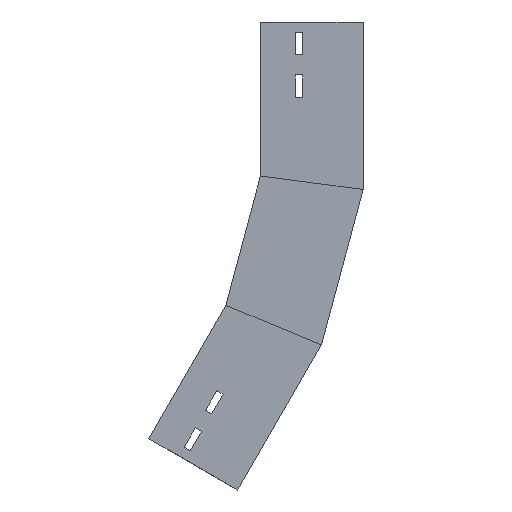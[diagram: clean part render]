
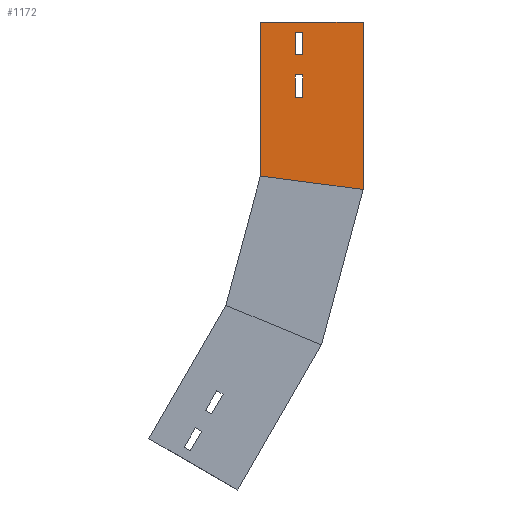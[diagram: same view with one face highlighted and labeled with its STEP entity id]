
A CAD part, left-side view. The second image highlights one B-rep face of the part: STEP entity #1172.
In plain terms, the highlighted planar face has unit normal (-1, 0, 0) as drawn and (1, 0, 0) by its records, which use the part's own axes.
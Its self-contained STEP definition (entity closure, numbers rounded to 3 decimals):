
#9 = CARTESIAN_POINT ( 'NONE',  ( 0., 127.134, -264.264 ) ) ;
#18 = ORIENTED_EDGE ( 'NONE', *, *, #209, .F. ) ;
#35 = VECTOR ( 'NONE', #793, 1000. ) ;
#42 = ORIENTED_EDGE ( 'NONE', *, *, #1484, .F. ) ;
#49 = ORIENTED_EDGE ( 'NONE', *, *, #1304, .F. ) ;
#53 = EDGE_CURVE ( 'NONE', #825, #692, #206, .T. ) ;
#57 = DIRECTION ( 'NONE',  ( 0., 0.866, 0.5 ) ) ;
#74 = VERTEX_POINT ( 'NONE', #1139 ) ;
#83 = CARTESIAN_POINT ( 'NONE',  ( 0., 147.374, -381.321 ) ) ;
#135 = VECTOR ( 'NONE', #415, 1000. ) ;
#141 = VECTOR ( 'NONE', #1040, 1000. ) ;
#146 = VECTOR ( 'NONE', #698, 1000. ) ;
#179 = ORIENTED_EDGE ( 'NONE', *, *, #1224, .T. ) ;
#190 = VECTOR ( 'NONE', #57, 1000. ) ;
#206 = LINE ( 'NONE', #226, #35 ) ;
#209 = EDGE_CURVE ( 'NONE', #570, #825, #336, .T. ) ;
#219 = VERTEX_POINT ( 'NONE', #443 ) ;
#225 = CARTESIAN_POINT ( 'NONE',  ( 0., 59.416, -306.442 ) ) ;
#226 = CARTESIAN_POINT ( 'NONE',  ( 0., 163.271, -394.856 ) ) ;
#230 = VERTEX_POINT ( 'NONE', #406 ) ;
#240 = VECTOR ( 'NONE', #1369, 1000. ) ;
#294 = AXIS2_PLACEMENT_3D ( 'NONE', #663, #765, #783 ) ;
#328 = FACE_OUTER_BOUND ( 'NONE', #1234, .T. ) ;
#336 = LINE ( 'NONE', #1469, #1409 ) ;
#338 = PLANE ( 'NONE',  #294 ) ;
#357 = DIRECTION ( 'NONE',  ( 0., 0.5, -0.866 ) ) ;
#363 = VECTOR ( 'NONE', #357, 1000. ) ;
#375 = DIRECTION ( 'NONE',  ( 0., -0.5, 0.866 ) ) ;
#376 = LINE ( 'NONE', #948, #141 ) ;
#380 = ORIENTED_EDGE ( 'NONE', *, *, #1482, .T. ) ;
#388 = CARTESIAN_POINT ( 'NONE',  ( 0., 168.209, -417.409 ) ) ;
#405 = EDGE_CURVE ( 'NONE', #692, #633, #376, .T. ) ;
#406 = CARTESIAN_POINT ( 'NONE',  ( 0., 208.634, -405.426 ) ) ;
#415 = DIRECTION ( 'NONE',  ( 0., 0.866, 0.5 ) ) ;
#437 = ORIENTED_EDGE ( 'NONE', *, *, #813, .T. ) ;
#442 = CARTESIAN_POINT ( 'NONE',  ( 0., 40.531, -314.264 ) ) ;
#443 = CARTESIAN_POINT ( 'NONE',  ( 0., 153.436, -377.821 ) ) ;
#461 = CARTESIAN_POINT ( 'NONE',  ( 0., 147.374, -381.321 ) ) ;
#467 = EDGE_LOOP ( 'NONE', ( #18, #42, #699, #1055 ) ) ;
#494 = VERTEX_POINT ( 'NONE', #1467 ) ;
#499 = VERTEX_POINT ( 'NONE', #442 ) ;
#570 = VERTEX_POINT ( 'NONE', #1301 ) ;
#599 = CARTESIAN_POINT ( 'NONE',  ( 0., 153.436, -377.821 ) ) ;
#608 = CARTESIAN_POINT ( 'NONE',  ( 0., 157.209, -398.356 ) ) ;
#610 = VECTOR ( 'NONE', #1400, 1000. ) ;
#627 = CARTESIAN_POINT ( 'NONE',  ( 0., 174.271, -413.909 ) ) ;
#633 = VERTEX_POINT ( 'NONE', #388 ) ;
#661 = VERTEX_POINT ( 'NONE', #1338 ) ;
#663 = CARTESIAN_POINT ( 'NONE',  ( 0., 40.531, -314.264 ) ) ;
#675 = DIRECTION ( 'NONE',  ( 0., -0.5, 0.866 ) ) ;
#687 = ORIENTED_EDGE ( 'NONE', *, *, #892, .F. ) ;
#692 = VERTEX_POINT ( 'NONE', #608 ) ;
#698 = DIRECTION ( 'NONE',  ( 0., -0.866, -0.5 ) ) ;
#699 = ORIENTED_EDGE ( 'NONE', *, *, #405, .F. ) ;
#739 = VECTOR ( 'NONE', #1033, 1000. ) ;
#765 = DIRECTION ( 'NONE',  ( -1., 0., 0. ) ) ;
#766 = VERTEX_POINT ( 'NONE', #83 ) ;
#770 = LINE ( 'NONE', #1024, #1382 ) ;
#780 = DIRECTION ( 'NONE',  ( 0., 0.5, -0.866 ) ) ;
#783 = DIRECTION ( 'NONE',  ( 0., 0., 1. ) ) ;
#793 = DIRECTION ( 'NONE',  ( 0., -0.866, -0.5 ) ) ;
#808 = CARTESIAN_POINT ( 'NONE',  ( 0., 153.436, -377.821 ) ) ;
#813 = EDGE_CURVE ( 'NONE', #499, #494, #770, .T. ) ;
#815 = VERTEX_POINT ( 'NONE', #1474 ) ;
#825 = VERTEX_POINT ( 'NONE', #1446 ) ;
#873 = EDGE_CURVE ( 'NONE', #815, #661, #885, .T. ) ;
#885 = LINE ( 'NONE', #1233, #146 ) ;
#890 = FACE_BOUND ( 'NONE', #1335, .T. ) ;
#892 = EDGE_CURVE ( 'NONE', #74, #230, #962, .T. ) ;
#923 = LINE ( 'NONE', #461, #240 ) ;
#945 = ORIENTED_EDGE ( 'NONE', *, *, #1285, .F. ) ;
#948 = CARTESIAN_POINT ( 'NONE',  ( 0., 168.209, -417.409 ) ) ;
#962 = LINE ( 'NONE', #9, #363 ) ;
#975 = EDGE_CURVE ( 'NONE', #661, #766, #923, .T. ) ;
#1012 = ORIENTED_EDGE ( 'NONE', *, *, #873, .F. ) ;
#1024 = CARTESIAN_POINT ( 'NONE',  ( 0., 40.531, -314.264 ) ) ;
#1033 = DIRECTION ( 'NONE',  ( 0., -0.924, -0.383 ) ) ;
#1040 = DIRECTION ( 'NONE',  ( 0., 0.5, -0.866 ) ) ;
#1055 = ORIENTED_EDGE ( 'NONE', *, *, #53, .F. ) ;
#1093 = ORIENTED_EDGE ( 'NONE', *, *, #975, .F. ) ;
#1137 = FACE_BOUND ( 'NONE', #467, .T. ) ;
#1138 = VECTOR ( 'NONE', #375, 1000. ) ;
#1139 = CARTESIAN_POINT ( 'NONE',  ( 0., 133.716, -275.665 ) ) ;
#1172 = ADVANCED_FACE ( 'NONE', ( #1137, #890, #328 ), #338, .F. ) ;
#1186 = CARTESIAN_POINT ( 'NONE',  ( 0., 122.031, -455.426 ) ) ;
#1219 = LINE ( 'NONE', #627, #190 ) ;
#1224 = EDGE_CURVE ( 'NONE', #74, #499, #1253, .T. ) ;
#1233 = CARTESIAN_POINT ( 'NONE',  ( 0., 142.436, -358.769 ) ) ;
#1234 = EDGE_LOOP ( 'NONE', ( #179, #437, #380, #687 ) ) ;
#1253 = LINE ( 'NONE', #225, #739 ) ;
#1275 = LINE ( 'NONE', #808, #610 ) ;
#1285 = EDGE_CURVE ( 'NONE', #219, #815, #1391, .T. ) ;
#1300 = LINE ( 'NONE', #1186, #135 ) ;
#1301 = CARTESIAN_POINT ( 'NONE',  ( 0., 174.271, -413.909 ) ) ;
#1304 = EDGE_CURVE ( 'NONE', #766, #219, #1275, .T. ) ;
#1335 = EDGE_LOOP ( 'NONE', ( #945, #49, #1093, #1012 ) ) ;
#1338 = CARTESIAN_POINT ( 'NONE',  ( 0., 136.374, -362.269 ) ) ;
#1369 = DIRECTION ( 'NONE',  ( 0., 0.5, -0.866 ) ) ;
#1382 = VECTOR ( 'NONE', #780, 1000. ) ;
#1391 = LINE ( 'NONE', #599, #1138 ) ;
#1400 = DIRECTION ( 'NONE',  ( 0., 0.866, 0.5 ) ) ;
#1409 = VECTOR ( 'NONE', #675, 1000. ) ;
#1446 = CARTESIAN_POINT ( 'NONE',  ( 0., 163.271, -394.856 ) ) ;
#1467 = CARTESIAN_POINT ( 'NONE',  ( 0., 122.031, -455.426 ) ) ;
#1469 = CARTESIAN_POINT ( 'NONE',  ( 0., 174.271, -413.909 ) ) ;
#1474 = CARTESIAN_POINT ( 'NONE',  ( 0., 142.436, -358.769 ) ) ;
#1482 = EDGE_CURVE ( 'NONE', #494, #230, #1300, .T. ) ;
#1484 = EDGE_CURVE ( 'NONE', #633, #570, #1219, .T. ) ;
